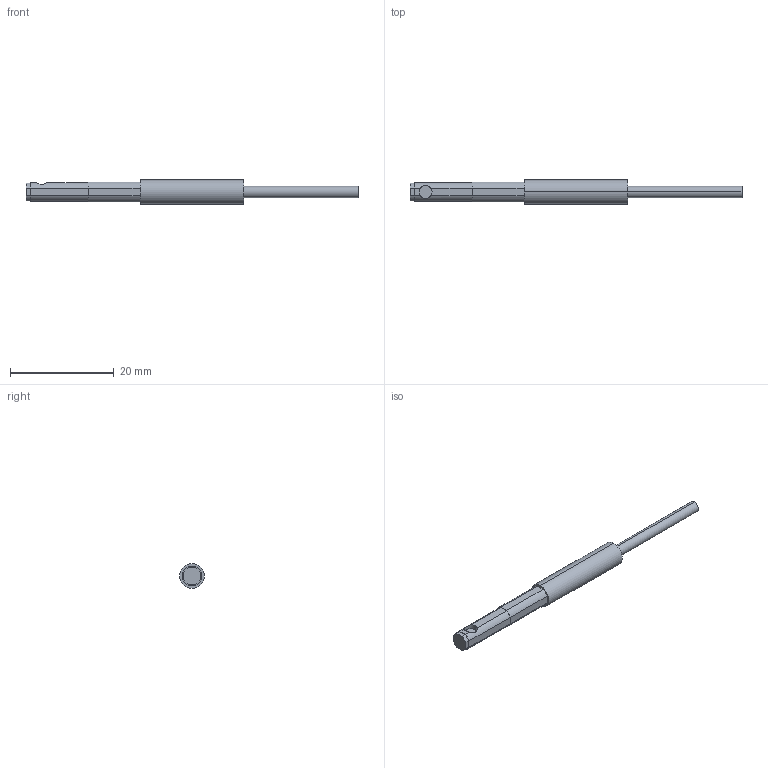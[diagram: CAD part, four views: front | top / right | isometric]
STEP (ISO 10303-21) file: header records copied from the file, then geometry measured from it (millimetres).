
FILE_DESCRIPTION (( 'STEP AP203' ), '1' );
FILE_NAME ('FT-KV8.STEP', '2005-11-08T11:41:33', ( 'MF1158' ), ( 'sunx' ), 'SwSTEP 2.0', 'SolidWorks 2005235', '' );
FILE_SCHEMA (( 'CONFIG_CONTROL_DESIGN' ));
Length unit declared in the file: millimetre
Products named in the file (1): FT-KV8
Bounding box: 64 x 4.7 x 4.7 mm (x, y, z)
Volume: 673.4 mm3; surface area: 753.7 mm2
Topology: 1 solids, 1 shells, 38 faces, 96 edges, 64 vertices
Faces by surface type: plane 20, cylinder 18
Entity records: 1261 total; most frequent: CARTESIAN_POINT 229, DIRECTION 210, ORIENTED_EDGE 192, EDGE_CURVE 96, AXIS2_PLACEMENT_3D 77, VERTEX_POINT 64, LINE 56, VECTOR 56
